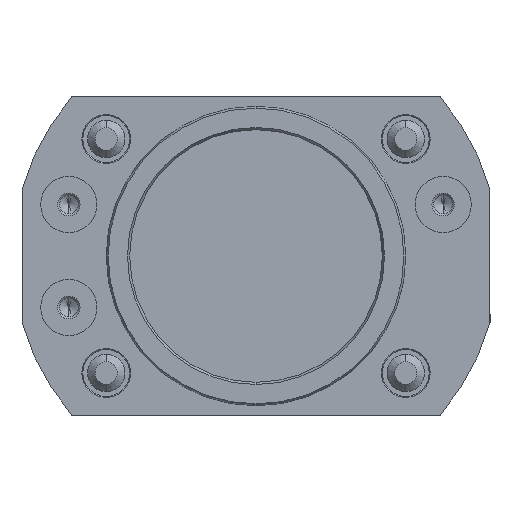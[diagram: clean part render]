
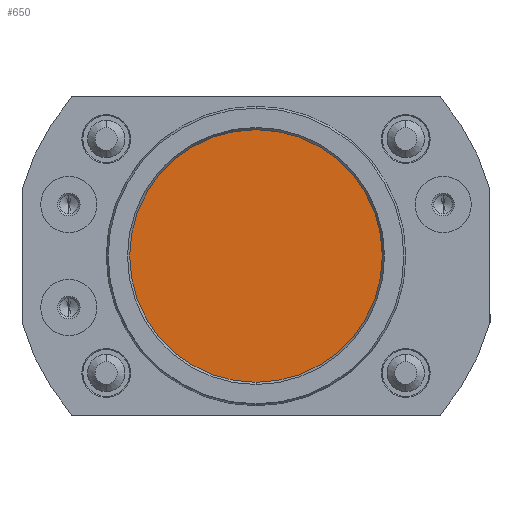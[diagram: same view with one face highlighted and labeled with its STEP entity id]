
A CAD part, front view. The second image highlights one B-rep face of the part: STEP entity #650.
In plain terms, the highlighted planar face has unit normal (0, -1, 0).
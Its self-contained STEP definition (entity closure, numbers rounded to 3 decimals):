
#617 = VERTEX_POINT ( 'NONE', #3627 ) ;
#625 = VERTEX_POINT ( 'NONE', #3619 ) ;
#627 = EDGE_CURVE ( 'NONE', #625, #617, #3606, .T. ) ;
#644 = EDGE_CURVE ( 'NONE', #617, #625, #3651, .T. ) ;
#650 = ADVANCED_FACE ( 'NONE', ( #3601 ), #3650, .T. ) ;
#653 = ORIENTED_EDGE ( 'NONE', *, *, #627, .F. ) ;
#745 = ORIENTED_EDGE ( 'NONE', *, *, #644, .F. ) ;
#766 = EDGE_LOOP ( 'NONE', ( #745, #653 ) ) ;
#3601 = FACE_OUTER_BOUND ( 'NONE', #766, .T. ) ;
#3603 = CARTESIAN_POINT ( 'NONE',  ( 0., 3.1, 0. ) ) ;
#3606 = CIRCLE ( 'NONE', #3666, 13.5 ) ;
#3619 = CARTESIAN_POINT ( 'NONE',  ( 0., 3.1, -13.5 ) ) ;
#3627 = CARTESIAN_POINT ( 'NONE',  ( 0., 3.1, 13.5 ) ) ;
#3636 = DIRECTION ( 'NONE',  ( 0., -1., 0. ) ) ;
#3637 = CARTESIAN_POINT ( 'NONE',  ( 0., 3.1, 0. ) ) ;
#3645 = DIRECTION ( 'NONE',  ( 0., 0., 1. ) ) ;
#3646 = DIRECTION ( 'NONE',  ( 0., 1., 0. ) ) ;
#3647 = DIRECTION ( 'NONE',  ( 0., 0., -1. ) ) ;
#3650 = PLANE ( 'NONE',  #3654 ) ;
#3651 = CIRCLE ( 'NONE', #3655, 13.5 ) ;
#3654 = AXIS2_PLACEMENT_3D ( 'NONE', #3637, #3636, #3647 ) ;
#3655 = AXIS2_PLACEMENT_3D ( 'NONE', #3660, #3646, #3645 ) ;
#3660 = CARTESIAN_POINT ( 'NONE',  ( 0., 3.1, 0. ) ) ;
#3664 = DIRECTION ( 'NONE',  ( 0., 0., 1. ) ) ;
#3665 = DIRECTION ( 'NONE',  ( 0., 1., 0. ) ) ;
#3666 = AXIS2_PLACEMENT_3D ( 'NONE', #3603, #3665, #3664 ) ;
